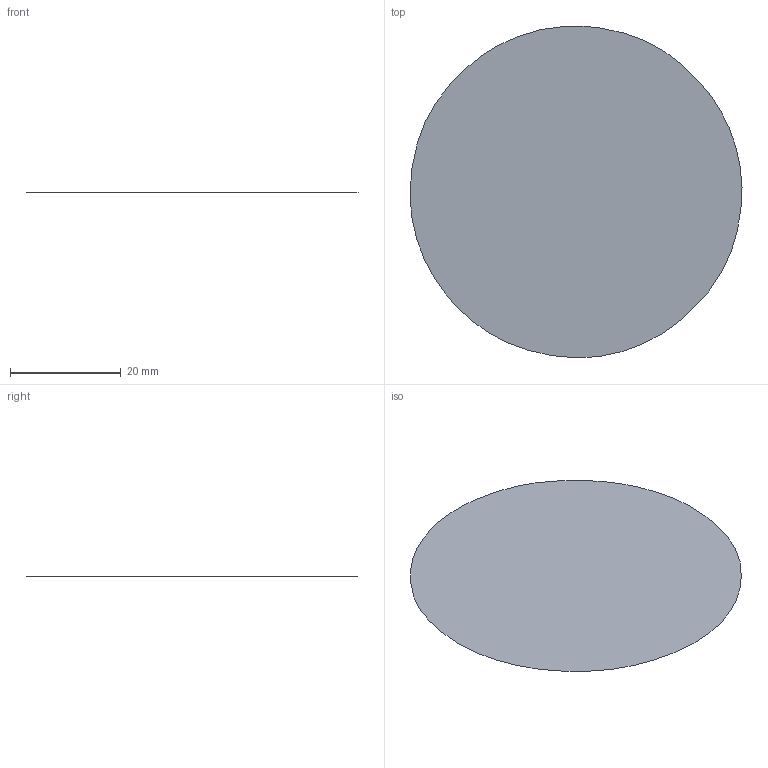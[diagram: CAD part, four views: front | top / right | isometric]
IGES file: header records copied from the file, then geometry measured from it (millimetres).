
Global section: file name: Filename.iges; native system: Open CASCADE 7.9; preprocessor: Open CASCADE IGES processor 7.9; author: HAKAN KARATEKE; date: 20261015.195651; units: inch
Bounding box: 60.05 x 60.01 x 0 mm (x, y, z)
Surface area: 2828.7 mm2 (no closed solid volume)
Topology: 0 solids, 0 shells, 1 faces, 1 edges, 1 vertices
Faces by surface type: plane 1
